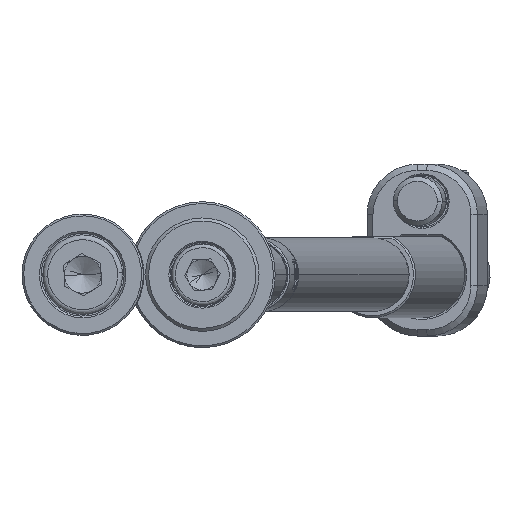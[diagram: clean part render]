
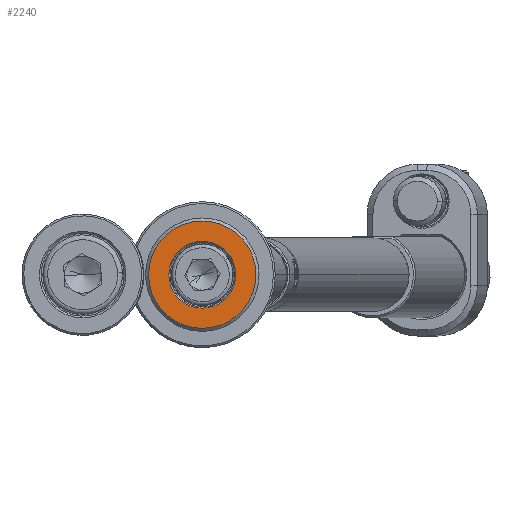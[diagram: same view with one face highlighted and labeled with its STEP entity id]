
A CAD part, front view. The second image highlights one B-rep face of the part: STEP entity #2240.
In plain terms, the highlighted planar face has unit normal (0, -1, 0).
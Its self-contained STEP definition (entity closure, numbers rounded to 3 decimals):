
#490 = AXIS2_PLACEMENT_3D ( 'NONE', #8631, #13078, #1719 ) ;
#1250 = ORIENTED_EDGE ( 'NONE', *, *, #3972, .T. ) ;
#1572 = FACE_OUTER_BOUND ( 'NONE', #7107, .T. ) ;
#1719 = DIRECTION ( 'NONE',  ( -0.505, 0., 0.863 ) ) ;
#1943 = CARTESIAN_POINT ( 'NONE',  ( 2.753, -4., -4.704 ) ) ;
#2222 = ORIENTED_EDGE ( 'NONE', *, *, #13709, .T. ) ;
#2240 = ADVANCED_FACE ( 'NONE', ( #7153, #1572 ), #7300, .F. ) ;
#2419 = CARTESIAN_POINT ( 'NONE',  ( 0., -4., 0. ) ) ;
#2698 = VERTEX_POINT ( 'NONE', #1943 ) ;
#2798 = CIRCLE ( 'NONE', #490, 8.75 ) ;
#2969 = DIRECTION ( 'NONE',  ( -0.505, 0., 0.863 ) ) ;
#3036 = AXIS2_PLACEMENT_3D ( 'NONE', #2419, #4793, #4585 ) ;
#3639 = VERTEX_POINT ( 'NONE', #13926 ) ;
#3755 = CARTESIAN_POINT ( 'NONE',  ( 4.42, -4., -7.552 ) ) ;
#3849 = DIRECTION ( 'NONE',  ( -0.505, 0., 0.863 ) ) ;
#3972 = EDGE_CURVE ( 'NONE', #2698, #4699, #8573, .T. ) ;
#3999 = EDGE_LOOP ( 'NONE', ( #1250, #5160 ) ) ;
#4585 = DIRECTION ( 'NONE',  ( -0.505, 0., 0.863 ) ) ;
#4699 = VERTEX_POINT ( 'NONE', #14153 ) ;
#4793 = DIRECTION ( 'NONE',  ( 0., -1., 0. ) ) ;
#5108 = CARTESIAN_POINT ( 'NONE',  ( 0., -4., 0. ) ) ;
#5147 = CIRCLE ( 'NONE', #8856, 5.45 ) ;
#5160 = ORIENTED_EDGE ( 'NONE', *, *, #8871, .T. ) ;
#5330 = EDGE_CURVE ( 'NONE', #7208, #3639, #2798, .T. ) ;
#6065 = DIRECTION ( 'NONE',  ( 0., 1., 0. ) ) ;
#6095 = CARTESIAN_POINT ( 'NONE',  ( -4.531, -4., -2.652 ) ) ;
#7107 = EDGE_LOOP ( 'NONE', ( #2222, #7386 ) ) ;
#7153 = FACE_BOUND ( 'NONE', #3999, .T. ) ;
#7166 = CIRCLE ( 'NONE', #3036, 8.75 ) ;
#7208 = VERTEX_POINT ( 'NONE', #3755 ) ;
#7300 = PLANE ( 'NONE',  #12785 ) ;
#7386 = ORIENTED_EDGE ( 'NONE', *, *, #5330, .T. ) ;
#8573 = CIRCLE ( 'NONE', #12279, 5.45 ) ;
#8631 = CARTESIAN_POINT ( 'NONE',  ( 0., -4., 0. ) ) ;
#8856 = AXIS2_PLACEMENT_3D ( 'NONE', #10078, #10225, #12336 ) ;
#8871 = EDGE_CURVE ( 'NONE', #4699, #2698, #5147, .T. ) ;
#10078 = CARTESIAN_POINT ( 'NONE',  ( 0., -4., 0. ) ) ;
#10225 = DIRECTION ( 'NONE',  ( 0., 1., 0. ) ) ;
#11735 = DIRECTION ( 'NONE',  ( 0., 1., 0. ) ) ;
#12279 = AXIS2_PLACEMENT_3D ( 'NONE', #5108, #6065, #3849 ) ;
#12336 = DIRECTION ( 'NONE',  ( -0.505, 0., 0.863 ) ) ;
#12785 = AXIS2_PLACEMENT_3D ( 'NONE', #6095, #11735, #2969 ) ;
#13078 = DIRECTION ( 'NONE',  ( 0., -1., 0. ) ) ;
#13709 = EDGE_CURVE ( 'NONE', #3639, #7208, #7166, .T. ) ;
#13926 = CARTESIAN_POINT ( 'NONE',  ( -4.42, -4., 7.552 ) ) ;
#14153 = CARTESIAN_POINT ( 'NONE',  ( -2.753, -4., 4.704 ) ) ;
